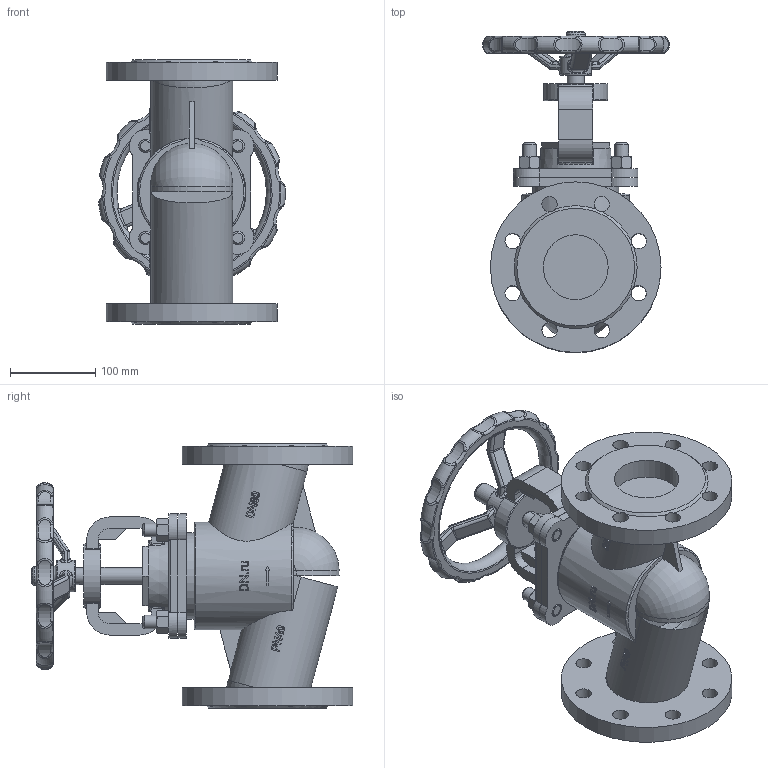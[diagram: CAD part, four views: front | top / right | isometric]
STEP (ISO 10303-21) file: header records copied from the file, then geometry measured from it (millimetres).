
FILE_DESCRIPTION(('STEP AP242'), '1');
FILE_NAME('VSO2130M-F-S 孰囡囗 玎镱痦 DN.ru 捏80 畜40', '2026-04-27T19:25:58', ('DN.ru'), (''), 'C3D Converter', 'C3D Toolkit', '');
FILE_SCHEMA(('AP242_MANAGED_MODEL_BASED_3D_ENGINEERING_MIM_LF { 1 0 10303 442 1 1 4 }'));
Length unit declared in the file: millimetre
Products named in the file (1): VSO2130M-F-S
Bounding box: 219.11 x 377 x 310 mm (x, y, z)
Volume: 4683874.3 mm3; surface area: 511130.4 mm2
Topology: 1 solids, 1 shells, 919 faces, 2365 edges, 1472 vertices
Faces by surface type: plane 262, extrusion 224, cylinder 165, torus 120, bspline 64, sphere 64, cone 20
Full cylindrical faces by diameter (mm): 16 x12, 18 x16, 20 x2, 22.35 x1, 37.25 x1, 38 x1, 75 x1, 76 x2, 96 x2, 101 x1, 126 x1, 200 x2
Entity records: 72545 total; most frequent: CARTESIAN_POINT 44561, ORIENTED_EDGE 4524, DIRECTION 3609, EDGE_CURVE 2262, VERTEX_POINT 1462, AXIS2_PLACEMENT_3D 1327, EDGE_LOOP 1078, B_SPLINE_CURVE_WITH_KNOTS 991
